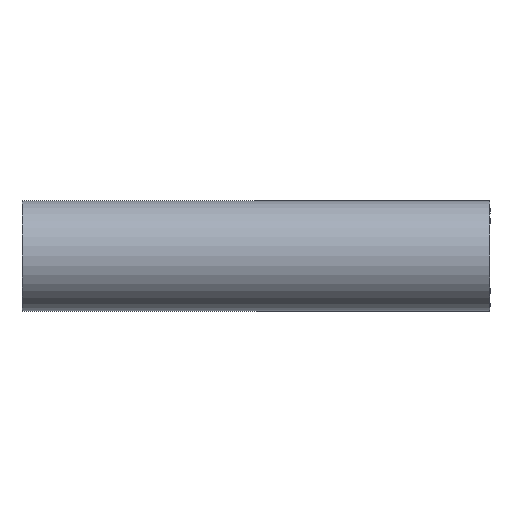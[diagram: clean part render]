
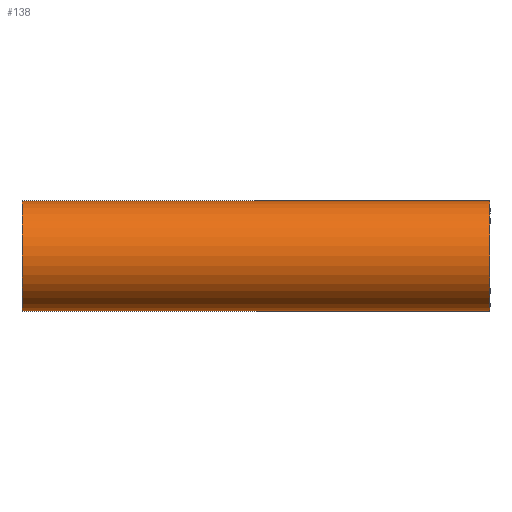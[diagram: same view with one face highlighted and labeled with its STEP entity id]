
A CAD part, front view. The second image highlights one B-rep face of the part: STEP entity #138.
In plain terms, the highlighted cylindrical face has radius 12.7 mm (diameter 25.4 mm), a partial arc.
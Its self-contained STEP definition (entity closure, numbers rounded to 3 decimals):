
#9 = AXIS2_PLACEMENT_3D ( 'NONE', #81, #77, #49 ) ;
#23 = CARTESIAN_POINT ( 'NONE',  ( -54., 0., 12.7 ) ) ;
#43 = VECTOR ( 'NONE', #750, 1000. ) ;
#49 = DIRECTION ( 'NONE',  ( 0., 0., -1. ) ) ;
#64 = DIRECTION ( 'NONE',  ( 1., 0., 0. ) ) ;
#77 = DIRECTION ( 'NONE',  ( -1., 0., 0. ) ) ;
#81 = CARTESIAN_POINT ( 'NONE',  ( 54., 0., 0. ) ) ;
#108 = CARTESIAN_POINT ( 'NONE',  ( 54., 0., -12.7 ) ) ;
#138 = ADVANCED_FACE ( 'NONE', ( #271 ), #316, .T. ) ;
#141 = AXIS2_PLACEMENT_3D ( 'NONE', #1318, #1201, #1208 ) ;
#142 = LINE ( 'NONE', #331, #43 ) ;
#164 = LINE ( 'NONE', #270, #202 ) ;
#188 = CARTESIAN_POINT ( 'NONE',  ( 0., 0., -12.7 ) ) ;
#199 = CIRCLE ( 'NONE', #9, 12.7 ) ;
#201 = DIRECTION ( 'NONE',  ( 1., 0., 0. ) ) ;
#202 = VECTOR ( 'NONE', #201, 1000. ) ;
#266 = EDGE_CURVE ( 'NONE', #797, #1204, #1256, .T. ) ;
#270 = CARTESIAN_POINT ( 'NONE',  ( -54., 0., 12.7 ) ) ;
#271 = FACE_OUTER_BOUND ( 'NONE', #1400, .T. ) ;
#281 = LINE ( 'NONE', #443, #1367 ) ;
#316 = CYLINDRICAL_SURFACE ( 'NONE', #1482, 12.7 ) ;
#318 = CARTESIAN_POINT ( 'NONE',  ( -54., 0., -12.7 ) ) ;
#322 = LINE ( 'NONE', #1197, #626 ) ;
#329 = ORIENTED_EDGE ( 'NONE', *, *, #266, .T. ) ;
#331 = CARTESIAN_POINT ( 'NONE',  ( -54., 0., -12.7 ) ) ;
#437 = ORIENTED_EDGE ( 'NONE', *, *, #616, .F. ) ;
#443 = CARTESIAN_POINT ( 'NONE',  ( -54., 0., 12.7 ) ) ;
#525 = DIRECTION ( 'NONE',  ( 1., 0., 0. ) ) ;
#554 = EDGE_CURVE ( 'NONE', #1204, #963, #322, .T. ) ;
#616 = EDGE_CURVE ( 'NONE', #1022, #1464, #281, .T. ) ;
#626 = VECTOR ( 'NONE', #1270, 1000. ) ;
#741 = EDGE_CURVE ( 'NONE', #963, #1427, #142, .T. ) ;
#750 = DIRECTION ( 'NONE',  ( 1., 0., 0. ) ) ;
#768 = CARTESIAN_POINT ( 'NONE',  ( -54., 0., 0. ) ) ;
#769 = ORIENTED_EDGE ( 'NONE', *, *, #741, .T. ) ;
#797 = VERTEX_POINT ( 'NONE', #23 ) ;
#864 = EDGE_CURVE ( 'NONE', #797, #1022, #164, .T. ) ;
#900 = EDGE_CURVE ( 'NONE', #1427, #1464, #199, .T. ) ;
#950 = CARTESIAN_POINT ( 'NONE',  ( 54., 0., 12.7 ) ) ;
#963 = VERTEX_POINT ( 'NONE', #188 ) ;
#1022 = VERTEX_POINT ( 'NONE', #1352 ) ;
#1107 = ORIENTED_EDGE ( 'NONE', *, *, #900, .T. ) ;
#1197 = CARTESIAN_POINT ( 'NONE',  ( -54., 0., -12.7 ) ) ;
#1201 = DIRECTION ( 'NONE',  ( 1., 0., 0. ) ) ;
#1204 = VERTEX_POINT ( 'NONE', #318 ) ;
#1208 = DIRECTION ( 'NONE',  ( 0., 0., -1. ) ) ;
#1256 = CIRCLE ( 'NONE', #141, 12.7 ) ;
#1270 = DIRECTION ( 'NONE',  ( 1., 0., 0. ) ) ;
#1286 = DIRECTION ( 'NONE',  ( 0., 0., -1. ) ) ;
#1318 = CARTESIAN_POINT ( 'NONE',  ( -54., 0., 0. ) ) ;
#1343 = ORIENTED_EDGE ( 'NONE', *, *, #864, .F. ) ;
#1352 = CARTESIAN_POINT ( 'NONE',  ( 0., 0., 12.7 ) ) ;
#1367 = VECTOR ( 'NONE', #525, 1000. ) ;
#1396 = ORIENTED_EDGE ( 'NONE', *, *, #554, .T. ) ;
#1400 = EDGE_LOOP ( 'NONE', ( #1343, #329, #1396, #769, #1107, #437 ) ) ;
#1427 = VERTEX_POINT ( 'NONE', #108 ) ;
#1464 = VERTEX_POINT ( 'NONE', #950 ) ;
#1482 = AXIS2_PLACEMENT_3D ( 'NONE', #768, #64, #1286 ) ;
